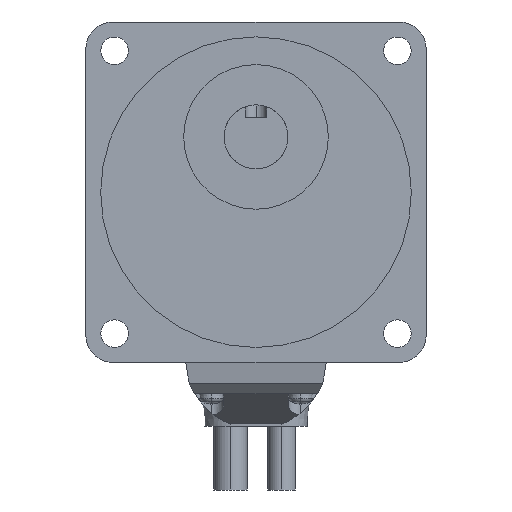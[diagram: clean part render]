
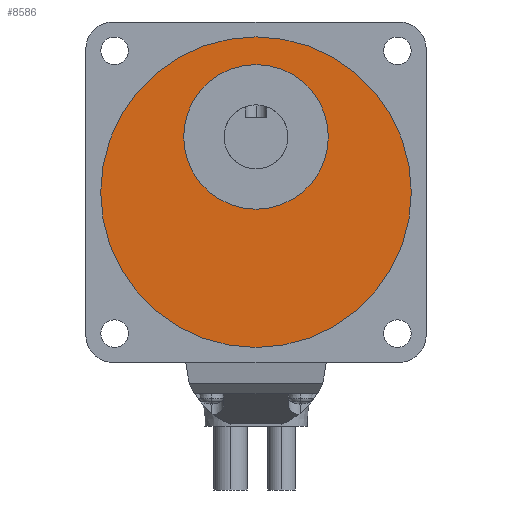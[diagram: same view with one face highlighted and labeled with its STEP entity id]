
A CAD part, front view. The second image highlights one B-rep face of the part: STEP entity #8586.
In plain terms, the highlighted planar face has unit normal (0, -1, 0).
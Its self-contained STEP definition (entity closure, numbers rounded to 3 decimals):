
#8478=CARTESIAN_POINT('POINT129924',(0.,
   1.,23.5));
#8479=VERTEX_POINT('VERTEX129924',#8478);
#8487=CARTESIAN_POINT('POINT129925',(0.,
   1.,-49.5));
#8488=VERTEX_POINT('VERTEX129925',#8487);
#8495=CARTESIAN_POINT('POS221272',(0.,1.,
   -13.));
#8496=DIRECTION('DIR314014',(0.,1.,
   0.));
#8497=DIRECTION('DIR314015',(0.,0.
   ,1.));
#8498=AXIS2_PLACEMENT_3D('AXIS92743',#8495,#8496,#8497);
#8499=CIRCLE('ELLIPSE34433',#8498,36.5);
#8500=EDGE_CURVE('EDGE200963',#8488,#8479,#8499,.T.);
#8511=EDGE_CURVE('EDGE200964',#8479,#8488,#8499,.T.);
#8562=ORIENTED_EDGE('COEDGE402051',*,*,#8511,.F.);
#8563=ORIENTED_EDGE('COEDGE402052',*,*,#8500,.F.);
#8564=EDGE_LOOP('NONE',(#8562,#8563));
#8565=FACE_BOUND('LOOP1',#8564,.T.);
#8566=CARTESIAN_POINT('POINT129928',(0.,
   1.,-17.));
#8567=VERTEX_POINT('VERTEX129928',#8566);
#8568=CARTESIAN_POINT('POINT129929',(0.,1.,
   17.));
#8569=VERTEX_POINT('VERTEX129929',#8568);
#8570=CARTESIAN_POINT('POS221278',(0.,1.,0.));
#8571=DIRECTION('DIR314024',(0.,1.,
   0.));
#8572=DIRECTION('DIR314025',(0.,
   0.,-1.));
#8573=AXIS2_PLACEMENT_3D('AXIS92747',#8570,#8571,#8572);
#8574=CIRCLE('ELLIPSE34435',#8573,17.);
#8575=EDGE_CURVE('EDGE200969',#8567,#8569,#8574,.T.);
#8576=ORIENTED_EDGE('COEDGE402053',*,*,#8575,.T.);
#8577=EDGE_CURVE('EDGE200970',#8569,#8567,#8574,.T.);
#8578=ORIENTED_EDGE('COEDGE402054',*,*,#8577,.T.);
#8579=EDGE_LOOP('NONE',(#8576,#8578));
#8580=FACE_BOUND('LOOP1',#8579,.T.);
#8581=CARTESIAN_POINT('POS221279',(0.,1.,
   -13.));
#8582=DIRECTION('DIR314026',(0.,1.,
   0.));
#8583=DIRECTION('DIR314027',(1.,0.,
   0.));
#8584=AXIS2_PLACEMENT_3D('AXIS92748',#8581,#8582,#8583);
#8585=PLANE('PLANE44433',#8584);
#8586=ADVANCED_FACE('FACE78243',(#8565,#8580),#8585,.F.);
